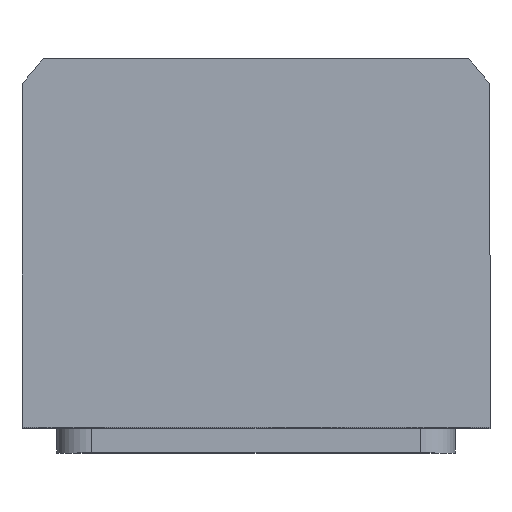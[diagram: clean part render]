
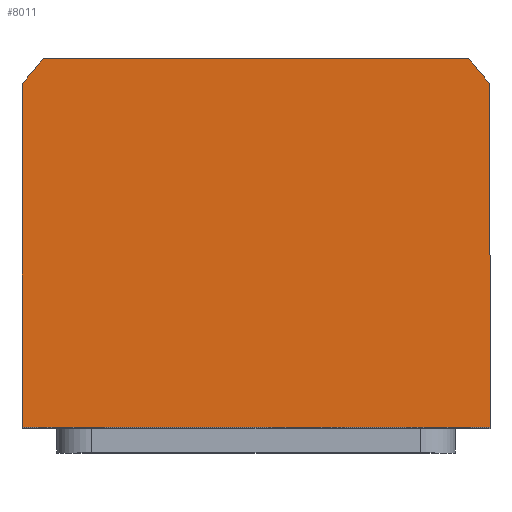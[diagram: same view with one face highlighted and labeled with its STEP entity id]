
A CAD part, top view. The second image highlights one B-rep face of the part: STEP entity #8011.
In plain terms, the highlighted planar face has unit normal (0, 0, 1).
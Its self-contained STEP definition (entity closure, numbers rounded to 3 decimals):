
#25 = CARTESIAN_POINT ( 'NONE',  ( -42.688, 40., 72.5 ) ) ;
#49 = ORIENTED_EDGE ( 'NONE', *, *, #4731, .T. ) ;
#153 = LINE ( 'NONE', #4479, #5482 ) ;
#399 = VERTEX_POINT ( 'NONE', #4211 ) ;
#530 = AXIS2_PLACEMENT_3D ( 'NONE', #5871, #6630, #3206 ) ;
#665 = LINE ( 'NONE', #4098, #1309 ) ;
#703 = ORIENTED_EDGE ( 'NONE', *, *, #4814, .T. ) ;
#868 = DIRECTION ( 'NONE',  ( -1., 0., 0. ) ) ;
#1116 = CARTESIAN_POINT ( 'NONE',  ( 47., 34.832, 72.5 ) ) ;
#1309 = VECTOR ( 'NONE', #8312, 1000. ) ;
#1430 = CIRCLE ( 'NONE', #530, 58.5 ) ;
#1494 = CIRCLE ( 'NONE', #2142, 58.5 ) ;
#1721 = PLANE ( 'NONE',  #3260 ) ;
#2142 = AXIS2_PLACEMENT_3D ( 'NONE', #5917, #5838, #8532 ) ;
#2248 = VECTOR ( 'NONE', #868, 1000. ) ;
#2639 = ORIENTED_EDGE ( 'NONE', *, *, #8126, .T. ) ;
#2649 = VERTEX_POINT ( 'NONE', #3902 ) ;
#2791 = LINE ( 'NONE', #25, #2248 ) ;
#3206 = DIRECTION ( 'NONE',  ( 1., 0., 0. ) ) ;
#3214 = EDGE_CURVE ( 'NONE', #399, #2649, #1430, .T. ) ;
#3260 = AXIS2_PLACEMENT_3D ( 'NONE', #9364, #9473, #6831 ) ;
#3599 = CARTESIAN_POINT ( 'NONE',  ( -47., -34., 72.5 ) ) ;
#3902 = CARTESIAN_POINT ( 'NONE',  ( -47., 34.832, 72.5 ) ) ;
#3987 = CARTESIAN_POINT ( 'NONE',  ( 42.688, 40., 72.5 ) ) ;
#4043 = FACE_OUTER_BOUND ( 'NONE', #8187, .T. ) ;
#4098 = CARTESIAN_POINT ( 'NONE',  ( 47., 34.832, 72.5 ) ) ;
#4196 = ORIENTED_EDGE ( 'NONE', *, *, #7106, .T. ) ;
#4211 = CARTESIAN_POINT ( 'NONE',  ( -42.688, 40., 72.5 ) ) ;
#4479 = CARTESIAN_POINT ( 'NONE',  ( 47., -34., 72.5 ) ) ;
#4731 = EDGE_CURVE ( 'NONE', #10406, #6449, #665, .T. ) ;
#4814 = EDGE_CURVE ( 'NONE', #10162, #399, #2791, .T. ) ;
#5155 = VERTEX_POINT ( 'NONE', #8944 ) ;
#5482 = VECTOR ( 'NONE', #7854, 1000. ) ;
#5838 = DIRECTION ( 'NONE',  ( 0., 0., 1. ) ) ;
#5871 = CARTESIAN_POINT ( 'NONE',  ( 0., 0., 72.5 ) ) ;
#5917 = CARTESIAN_POINT ( 'NONE',  ( 0., 0., 72.5 ) ) ;
#6055 = VECTOR ( 'NONE', #8710, 1000. ) ;
#6449 = VERTEX_POINT ( 'NONE', #1116 ) ;
#6630 = DIRECTION ( 'NONE',  ( 0., 0., 1. ) ) ;
#6831 = DIRECTION ( 'NONE',  ( 1., 0., 0. ) ) ;
#7106 = EDGE_CURVE ( 'NONE', #6449, #10162, #1494, .T. ) ;
#7777 = CARTESIAN_POINT ( 'NONE',  ( 47., -34., 72.5 ) ) ;
#7854 = DIRECTION ( 'NONE',  ( 1., 0., 0. ) ) ;
#8011 = ADVANCED_FACE ( 'NONE', ( #4043 ), #1721, .T. ) ;
#8126 = EDGE_CURVE ( 'NONE', #2649, #5155, #10165, .T. ) ;
#8187 = EDGE_LOOP ( 'NONE', ( #8998, #49, #4196, #703, #9576, #2639 ) ) ;
#8312 = DIRECTION ( 'NONE',  ( 0., 1., 0. ) ) ;
#8532 = DIRECTION ( 'NONE',  ( 1., 0., 0. ) ) ;
#8710 = DIRECTION ( 'NONE',  ( 0., -1., 0. ) ) ;
#8944 = CARTESIAN_POINT ( 'NONE',  ( -47., -34., 72.5 ) ) ;
#8998 = ORIENTED_EDGE ( 'NONE', *, *, #10416, .T. ) ;
#9364 = CARTESIAN_POINT ( 'NONE',  ( 0., 0., 72.5 ) ) ;
#9473 = DIRECTION ( 'NONE',  ( 0., 0., 1. ) ) ;
#9576 = ORIENTED_EDGE ( 'NONE', *, *, #3214, .T. ) ;
#10162 = VERTEX_POINT ( 'NONE', #3987 ) ;
#10165 = LINE ( 'NONE', #3599, #6055 ) ;
#10406 = VERTEX_POINT ( 'NONE', #7777 ) ;
#10416 = EDGE_CURVE ( 'NONE', #5155, #10406, #153, .T. ) ;
